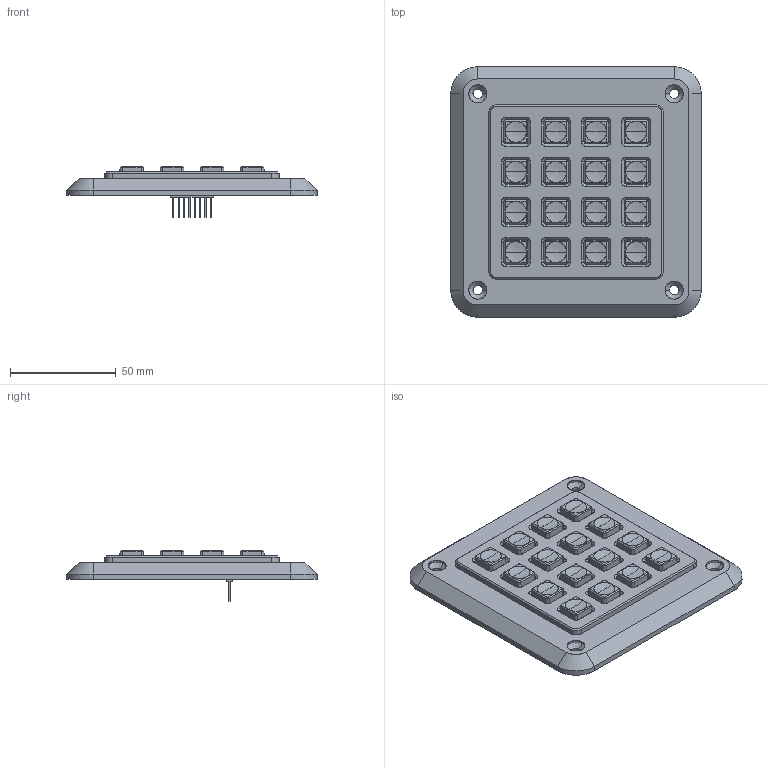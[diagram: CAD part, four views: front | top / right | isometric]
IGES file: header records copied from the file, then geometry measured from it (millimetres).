
Start section: SolidWorks IGES file using analytic representation for surfaces
Global section: file name: C:\Documents and Settings\tracys.STORMINTERFACE\Desktop\website models\16_WAY_GS_SPACE_MODEL~1.IGS; native system: SolidWorks 2006 by SolidWorks Corporation; preprocessor: SolidWorks 2006 by SolidWorks Corporation; author: tracys; date: 051027.172718; units: millimetre
Bounding box: 118.5 x 118.5 x 24.05 mm (x, y, z)
Surface area: 38374.8 mm2 (no closed solid volume)
Topology: 0 solids, 0 shells, 664 faces, 6172 edges, 6156 vertices
Faces by surface type: revolution 340, bspline 324
